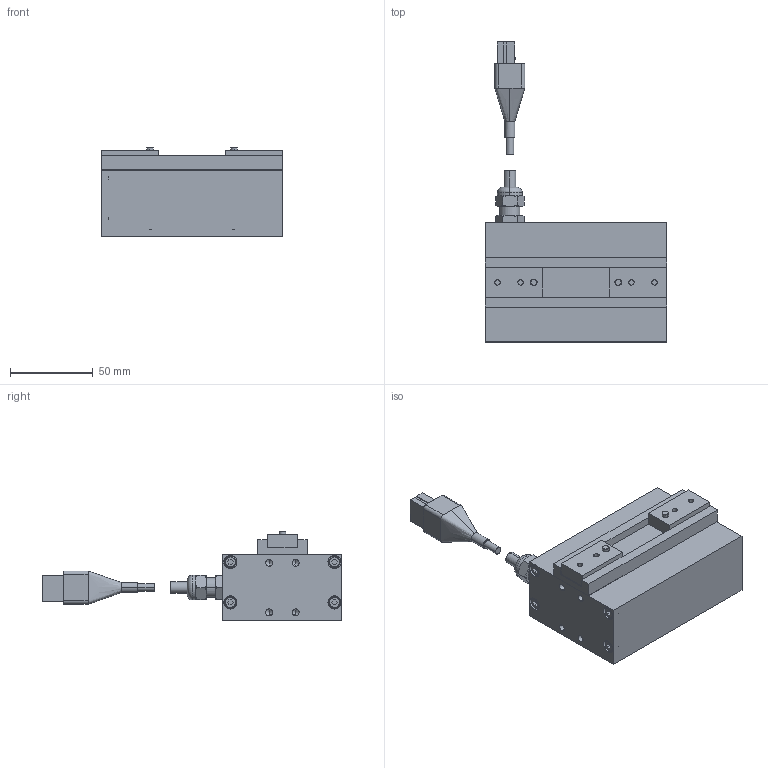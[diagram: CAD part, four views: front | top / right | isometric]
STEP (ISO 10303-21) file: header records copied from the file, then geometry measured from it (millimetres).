
FILE_DESCRIPTION (( 'STEP AP214' ), '1' );
FILE_NAME ('ESG1-FT-2840-P.STEP', '2009-02-12T09:58:15', ( '風音庵' ), ( '' ), 'SwSTEP 2.0', 'SolidWorks 2007', '' );
FILE_SCHEMA (( 'AUTOMOTIVE_DESIGN' ));
Length unit declared in the file: millimetre
Products named in the file (7): ESG1-FT-2840-P; CONNECTOR　DK-2100D-12R_ﾃﾞﾌｫﾙﾄ; CNNECTOR丂BB丂ASSY_棉太倌; ESG1-FS-2840 FINGER_蹬怮椔; ESG1-FT-2840-P BODY_蹬怮椔; JOINT_蹬怮椔; CONNECTOR COVER　BB_ﾃﾞﾌｫﾙﾄ
Assembly tree (7 placements, depth 3):
  ESG1-FT-2840-P
    ESG1-FT-2840-P BODY_蹬怮椔
    ESG1-FS-2840 FINGER_蹬怮椔  x2
    CNNECTOR丂BB丂ASSY_棉太倌
      CONNECTOR COVER　BB_ﾃﾞﾌｫﾙﾄ
      CONNECTOR　DK-2100D-12R_ﾃﾞﾌｫﾙﾄ
    JOINT_蹬怮椔
Bounding box: 110 x 181.39 x 54 mm (x, y, z)
Volume: 355294.3 mm3; surface area: 50934.1 mm2
Topology: 6 solids, 6 shells, 441 faces, 1036 edges, 650 vertices
Faces by surface type: plane 261, cylinder 100, cone 76, bspline 2, torus 2
Entity records: 17345 total; most frequent: CARTESIAN_POINT 2749, DIRECTION 2032, ORIENTED_EDGE 1956, EDGE_CURVE 978, VECTOR 686, LINE 686, AXIS2_PLACEMENT_3D 673, VERTEX_POINT 628
